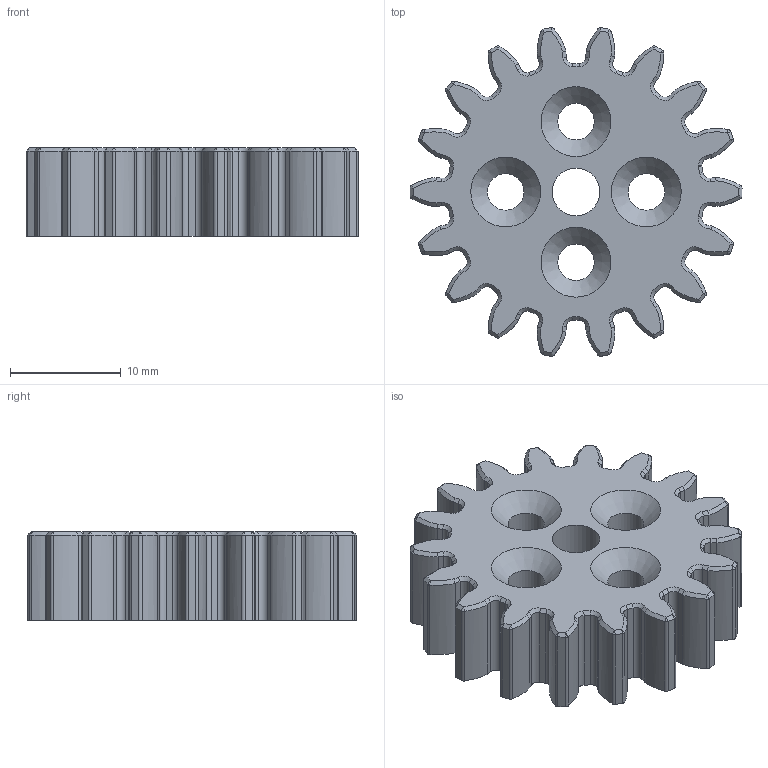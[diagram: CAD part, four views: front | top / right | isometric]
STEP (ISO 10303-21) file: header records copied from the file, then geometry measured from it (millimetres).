
FILE_DESCRIPTION(/* description */ ('Alibre Inc.'),/* implementation_level */ '2;1');
FILE_NAME(/* name */ 'export-50967D21-437D-40D7-B0BC-9487531F71FB',/* time_stamp */ '2026-01-27T09:30:41+00:00',/* author */ (''),/* organization */ (''),/* preprocessor_version */ 'ST-DEVELOPER v17',/* originating_system */ 'Alibre',/* authorisation */ '');
FILE_SCHEMA (('CONFIG_CONTROL_DESIGN'));
Length unit declared in the file: millimetre
Products named in the file (1): Body
Bounding box: 29.98 x 29.65 x 8 mm (x, y, z)
Volume: 2908.3 mm3; surface area: 2779.1 mm2
Topology: 1 solids, 1 shells, 375 faces, 935 edges, 527 vertices
Faces by surface type: plane 147, cylinder 79, cone 77, bspline 72
Full cylindrical faces by diameter (mm): 3.3 x4, 4.3 x1, 19.3 x1
Entity records: 15312 total; most frequent: CARTESIAN_POINT 7171, ORIENTED_EDGE 1770, DIRECTION 1399, EDGE_CURVE 885, VECTOR 542, LINE 542, VERTEX_POINT 523, AXIS2_PLACEMENT_3D 502
